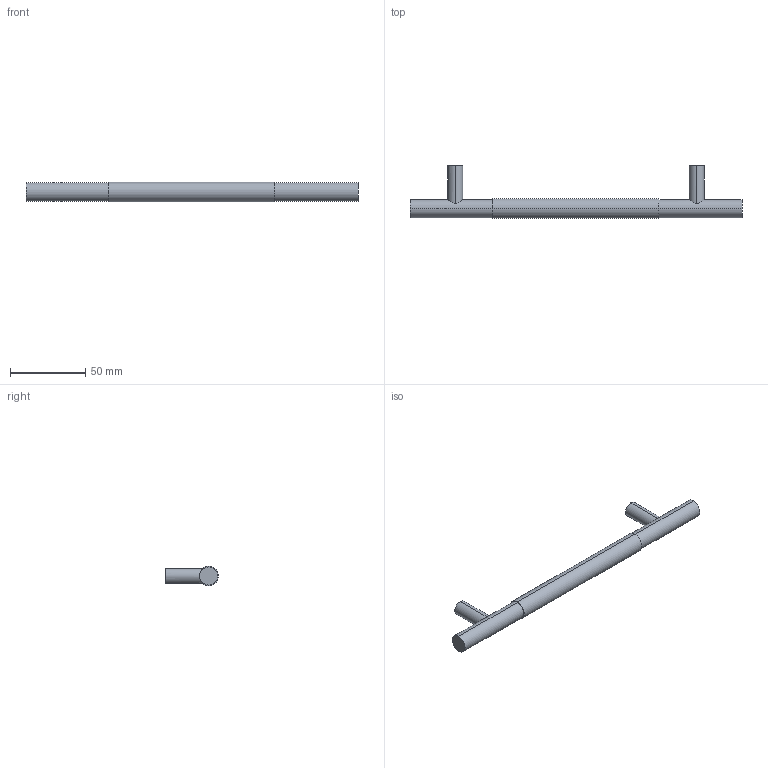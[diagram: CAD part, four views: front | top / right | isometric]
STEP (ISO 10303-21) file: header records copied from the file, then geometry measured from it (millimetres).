
FILE_DESCRIPTION( ( '' ), '1' );
FILE_NAME( 'C:/Documents and Settings/Sachin/Desktop/Sheet 10_1/stp/9070147.stp', '2013-10-22T09:23:57', ( '' ), ( '' ), ' ', ' ', ' ' );
FILE_SCHEMA( ( 'CONFIG_CONTROL_DESIGN' ) );
Length unit declared in the file: millimetre
Products named in the file (1): 1
Bounding box: 220 x 35 x 13 mm (x, y, z)
Volume: 30440.6 mm3; surface area: 10603.4 mm2
Topology: 1 solids, 1 shells, 22 faces, 42 edges, 28 vertices
Faces by surface type: cylinder 14, plane 8
Entity records: 738 total; most frequent: CARTESIAN_POINT 225, DIRECTION 108, ORIENTED_EDGE 84, AXIS2_PLACEMENT_3D 47, EDGE_CURVE 42, EDGE_LOOP 28, VERTEX_POINT 28, CIRCLE 24
